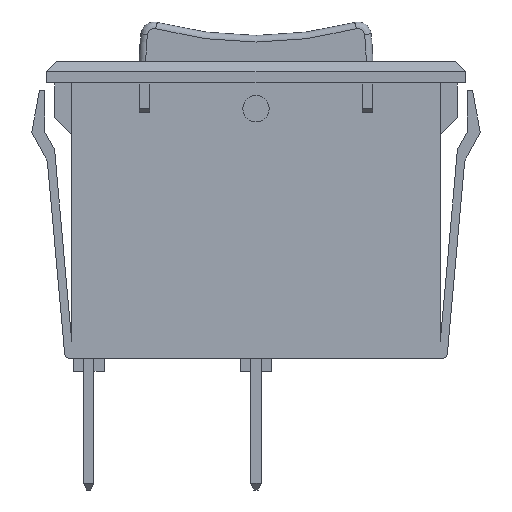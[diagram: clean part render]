
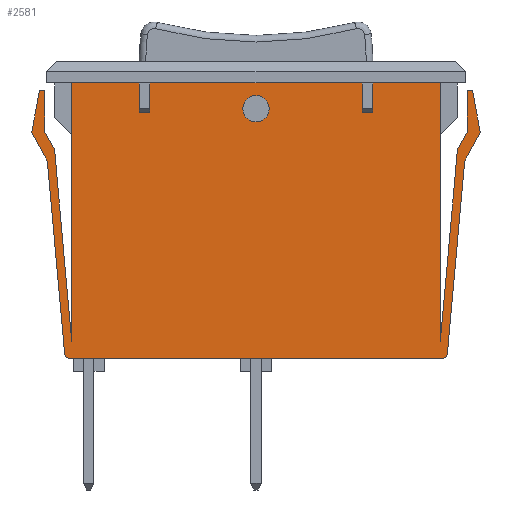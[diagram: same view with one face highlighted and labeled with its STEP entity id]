
A CAD part, left-side view. The second image highlights one B-rep face of the part: STEP entity #2581.
In plain terms, the highlighted planar face has unit normal (-1, 0, 0).
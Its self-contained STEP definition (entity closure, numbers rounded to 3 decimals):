
#30=FACE_BOUND('',#313,.T.);
#164=FACE_OUTER_BOUND('',#312,.T.);
#312=EDGE_LOOP('',(#2159,#2160,#2161,#2162,#2163,#2164,#2165,#2166,#2167,
#2168,#2169,#2170,#2171,#2172,#2173,#2174,#2175,#2176,#2177,#2178));
#313=EDGE_LOOP('',(#2179));
#372=LINE('',#3711,#688);
#512=LINE('',#4011,#828);
#527=LINE('',#4038,#843);
#553=LINE('',#4097,#869);
#555=LINE('',#4101,#871);
#557=LINE('',#4105,#873);
#559=LINE('',#4109,#875);
#561=LINE('',#4113,#877);
#563=LINE('',#4117,#879);
#565=LINE('',#4121,#881);
#575=LINE('',#4145,#891);
#577=LINE('',#4149,#893);
#579=LINE('',#4153,#895);
#581=LINE('',#4157,#897);
#583=LINE('',#4161,#899);
#585=LINE('',#4165,#901);
#587=LINE('',#4168,#903);
#602=LINE('',#4201,#918);
#688=VECTOR('',#2973,1000.);
#828=VECTOR('',#3205,1000.);
#843=VECTOR('',#3230,1000.);
#869=VECTOR('',#3286,1000.);
#871=VECTOR('',#3290,1000.);
#873=VECTOR('',#3294,1000.);
#875=VECTOR('',#3298,1000.);
#877=VECTOR('',#3302,1000.);
#879=VECTOR('',#3306,1000.);
#881=VECTOR('',#3310,1000.);
#891=VECTOR('',#3330,1000.);
#893=VECTOR('',#3334,1000.);
#895=VECTOR('',#3338,1000.);
#897=VECTOR('',#3342,1000.);
#899=VECTOR('',#3346,1000.);
#901=VECTOR('',#3350,1000.);
#903=VECTOR('',#3354,1000.);
#918=VECTOR('',#3391,1000.);
#1022=CIRCLE('',#2720,1.);
#1032=CIRCLE('',#2782,0.381);
#1034=CIRCLE('',#2793,0.381);
#1068=VERTEX_POINT('',#3708);
#1069=VERTEX_POINT('',#3710);
#1098=VERTEX_POINT('',#3770);
#1182=VERTEX_POINT('',#4008);
#1183=VERTEX_POINT('',#4010);
#1190=VERTEX_POINT('',#4036);
#1200=VERTEX_POINT('',#4076);
#1208=VERTEX_POINT('',#4096);
#1209=VERTEX_POINT('',#4100);
#1210=VERTEX_POINT('',#4104);
#1211=VERTEX_POINT('',#4108);
#1212=VERTEX_POINT('',#4112);
#1213=VERTEX_POINT('',#4116);
#1214=VERTEX_POINT('',#4120);
#1216=VERTEX_POINT('',#4126);
#1223=VERTEX_POINT('',#4144);
#1224=VERTEX_POINT('',#4148);
#1225=VERTEX_POINT('',#4152);
#1226=VERTEX_POINT('',#4156);
#1227=VERTEX_POINT('',#4160);
#1228=VERTEX_POINT('',#4164);
#1320=EDGE_CURVE('',#1068,#1069,#372,.T.);
#1350=EDGE_CURVE('',#1098,#1098,#1022,.T.);
#1468=EDGE_CURVE('',#1183,#1182,#512,.T.);
#1483=EDGE_CURVE('',#1190,#1182,#527,.T.);
#1503=EDGE_CURVE('',#1068,#1200,#1032,.T.);
#1512=EDGE_CURVE('',#1200,#1208,#553,.T.);
#1514=EDGE_CURVE('',#1208,#1209,#555,.T.);
#1516=EDGE_CURVE('',#1209,#1210,#557,.T.);
#1518=EDGE_CURVE('',#1210,#1211,#559,.T.);
#1520=EDGE_CURVE('',#1211,#1212,#561,.T.);
#1522=EDGE_CURVE('',#1212,#1213,#563,.T.);
#1524=EDGE_CURVE('',#1213,#1214,#565,.T.);
#1527=EDGE_CURVE('',#1216,#1069,#1034,.T.);
#1536=EDGE_CURVE('',#1223,#1190,#575,.T.);
#1538=EDGE_CURVE('',#1224,#1223,#577,.T.);
#1540=EDGE_CURVE('',#1225,#1224,#579,.T.);
#1542=EDGE_CURVE('',#1226,#1225,#581,.T.);
#1544=EDGE_CURVE('',#1227,#1226,#583,.T.);
#1546=EDGE_CURVE('',#1228,#1227,#585,.T.);
#1548=EDGE_CURVE('',#1216,#1228,#587,.T.);
#1564=EDGE_CURVE('',#1214,#1183,#602,.T.);
#2159=ORIENTED_EDGE('',*,*,#1320,.F.);
#2160=ORIENTED_EDGE('',*,*,#1503,.T.);
#2161=ORIENTED_EDGE('',*,*,#1512,.T.);
#2162=ORIENTED_EDGE('',*,*,#1514,.T.);
#2163=ORIENTED_EDGE('',*,*,#1516,.T.);
#2164=ORIENTED_EDGE('',*,*,#1518,.T.);
#2165=ORIENTED_EDGE('',*,*,#1520,.T.);
#2166=ORIENTED_EDGE('',*,*,#1522,.T.);
#2167=ORIENTED_EDGE('',*,*,#1524,.T.);
#2168=ORIENTED_EDGE('',*,*,#1564,.T.);
#2169=ORIENTED_EDGE('',*,*,#1468,.T.);
#2170=ORIENTED_EDGE('',*,*,#1483,.F.);
#2171=ORIENTED_EDGE('',*,*,#1536,.F.);
#2172=ORIENTED_EDGE('',*,*,#1538,.F.);
#2173=ORIENTED_EDGE('',*,*,#1540,.F.);
#2174=ORIENTED_EDGE('',*,*,#1542,.F.);
#2175=ORIENTED_EDGE('',*,*,#1544,.F.);
#2176=ORIENTED_EDGE('',*,*,#1546,.F.);
#2177=ORIENTED_EDGE('',*,*,#1548,.F.);
#2178=ORIENTED_EDGE('',*,*,#1527,.T.);
#2179=ORIENTED_EDGE('',*,*,#1350,.T.);
#2442=PLANE('',#2812);
#2581=ADVANCED_FACE('',(#164,#30),#2442,.F.);
#2720=AXIS2_PLACEMENT_3D('',#3771,#3005,#3006);
#2782=AXIS2_PLACEMENT_3D('',#4078,#3272,#3273);
#2793=AXIS2_PLACEMENT_3D('',#4127,#3316,#3317);
#2812=AXIS2_PLACEMENT_3D('',#4200,#3389,#3390);
#2973=DIRECTION('',(0.,1.,0.));
#3005=DIRECTION('center_axis',(1.,0.,0.));
#3006=DIRECTION('ref_axis',(0.,-1.,0.));
#3205=DIRECTION('',(0.,1.,0.));
#3230=DIRECTION('',(0.,0.,1.));
#3272=DIRECTION('center_axis',(-1.,0.,0.));
#3273=DIRECTION('ref_axis',(0.,0.,-1.));
#3286=DIRECTION('',(0.,-0.089,0.996));
#3290=DIRECTION('',(0.,-0.478,0.878));
#3294=DIRECTION('',(0.,0.185,0.983));
#3298=DIRECTION('',(0.,1.,0.));
#3302=DIRECTION('',(0.,0.,-1.));
#3306=DIRECTION('',(0.,0.478,-0.878));
#3310=DIRECTION('',(0.,0.089,-0.996));
#3316=DIRECTION('center_axis',(-1.,0.,0.));
#3317=DIRECTION('ref_axis',(0.,0.,-1.));
#3330=DIRECTION('',(0.,-0.089,-0.996));
#3334=DIRECTION('',(0.,-0.478,-0.878));
#3338=DIRECTION('',(0.,0.,-1.));
#3342=DIRECTION('',(0.,-1.,0.));
#3346=DIRECTION('',(0.,-0.185,0.983));
#3350=DIRECTION('',(0.,0.478,0.878));
#3354=DIRECTION('',(0.,0.089,0.996));
#3389=DIRECTION('center_axis',(1.,0.,0.));
#3390=DIRECTION('ref_axis',(0.,0.,-1.));
#3391=DIRECTION('',(0.,0.,1.));
#3708=CARTESIAN_POINT('',(-6.299,-14.155,-9.093));
#3710=CARTESIAN_POINT('',(-6.299,14.155,-9.093));
#3711=CARTESIAN_POINT('',(-6.299,13.995,-9.093));
#3770=CARTESIAN_POINT('',(-6.299,1.,9.861));
#3771=CARTESIAN_POINT('Origin',(-6.299,0.,9.861));
#4008=CARTESIAN_POINT('',(-6.299,13.995,11.811));
#4010=CARTESIAN_POINT('',(-6.299,-13.995,11.811));
#4011=CARTESIAN_POINT('',(-6.299,13.995,11.811));
#4036=CARTESIAN_POINT('',(-6.299,13.995,-7.802));
#4038=CARTESIAN_POINT('',(-6.299,13.995,-9.093));
#4076=CARTESIAN_POINT('',(-6.299,-14.535,-8.746));
#4078=CARTESIAN_POINT('Origin',(-6.299,-14.155,-8.712));
#4096=CARTESIAN_POINT('',(-6.299,-15.846,5.881));
#4097=CARTESIAN_POINT('',(-6.299,-14.503,-9.093));
#4100=CARTESIAN_POINT('',(-6.299,-17.037,8.07));
#4101=CARTESIAN_POINT('',(-6.299,-15.846,5.881));
#4104=CARTESIAN_POINT('',(-6.299,-16.441,11.233));
#4105=CARTESIAN_POINT('',(-6.299,-17.037,8.07));
#4108=CARTESIAN_POINT('',(-6.299,-16.028,11.233));
#4109=CARTESIAN_POINT('',(-6.299,-16.441,11.233));
#4112=CARTESIAN_POINT('',(-6.299,-16.028,8.07));
#4113=CARTESIAN_POINT('',(-6.299,-16.028,11.233));
#4116=CARTESIAN_POINT('',(-6.299,-15.298,6.728));
#4117=CARTESIAN_POINT('',(-6.299,-16.028,8.07));
#4120=CARTESIAN_POINT('',(-6.299,-13.995,-7.802));
#4121=CARTESIAN_POINT('',(-6.299,-15.298,6.728));
#4126=CARTESIAN_POINT('',(-6.299,14.535,-8.746));
#4127=CARTESIAN_POINT('Origin',(-6.299,14.155,-8.712));
#4144=CARTESIAN_POINT('',(-6.299,15.298,6.728));
#4145=CARTESIAN_POINT('',(-6.299,15.298,6.728));
#4148=CARTESIAN_POINT('',(-6.299,16.028,8.07));
#4149=CARTESIAN_POINT('',(-6.299,16.028,8.07));
#4152=CARTESIAN_POINT('',(-6.299,16.028,11.233));
#4153=CARTESIAN_POINT('',(-6.299,16.028,11.233));
#4156=CARTESIAN_POINT('',(-6.299,16.441,11.233));
#4157=CARTESIAN_POINT('',(-6.299,16.441,11.233));
#4160=CARTESIAN_POINT('',(-6.299,17.037,8.07));
#4161=CARTESIAN_POINT('',(-6.299,17.037,8.07));
#4164=CARTESIAN_POINT('',(-6.299,15.846,5.881));
#4165=CARTESIAN_POINT('',(-6.299,15.846,5.881));
#4168=CARTESIAN_POINT('',(-6.299,14.503,-9.093));
#4200=CARTESIAN_POINT('Origin',(-6.299,13.995,-9.093));
#4201=CARTESIAN_POINT('',(-6.299,-13.995,-9.093));
